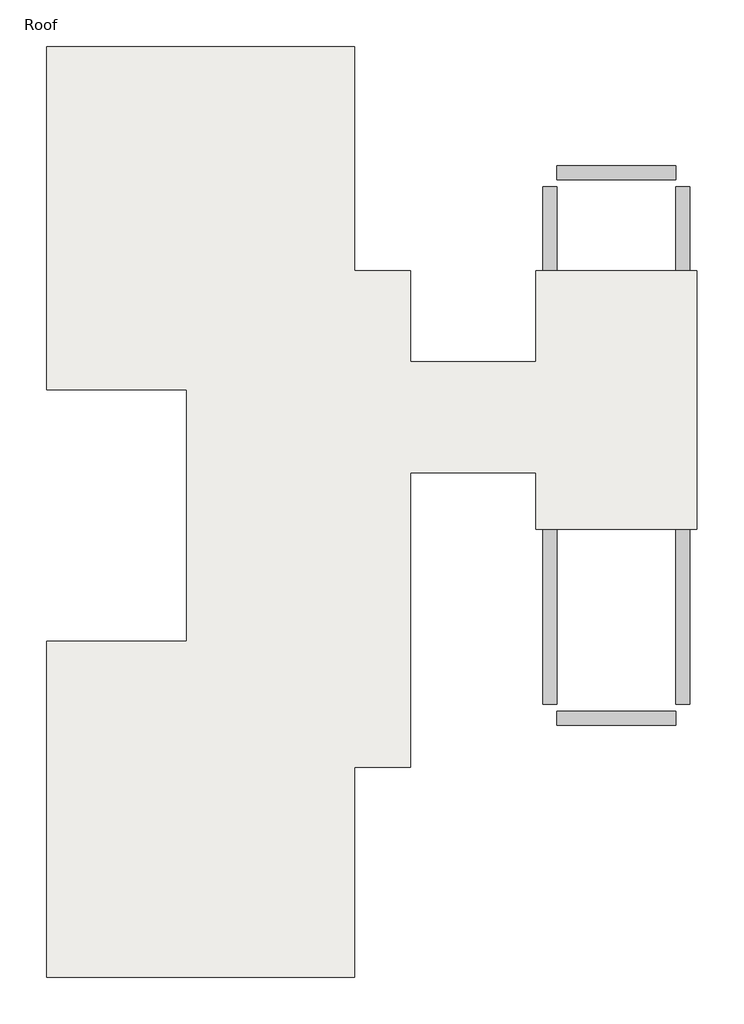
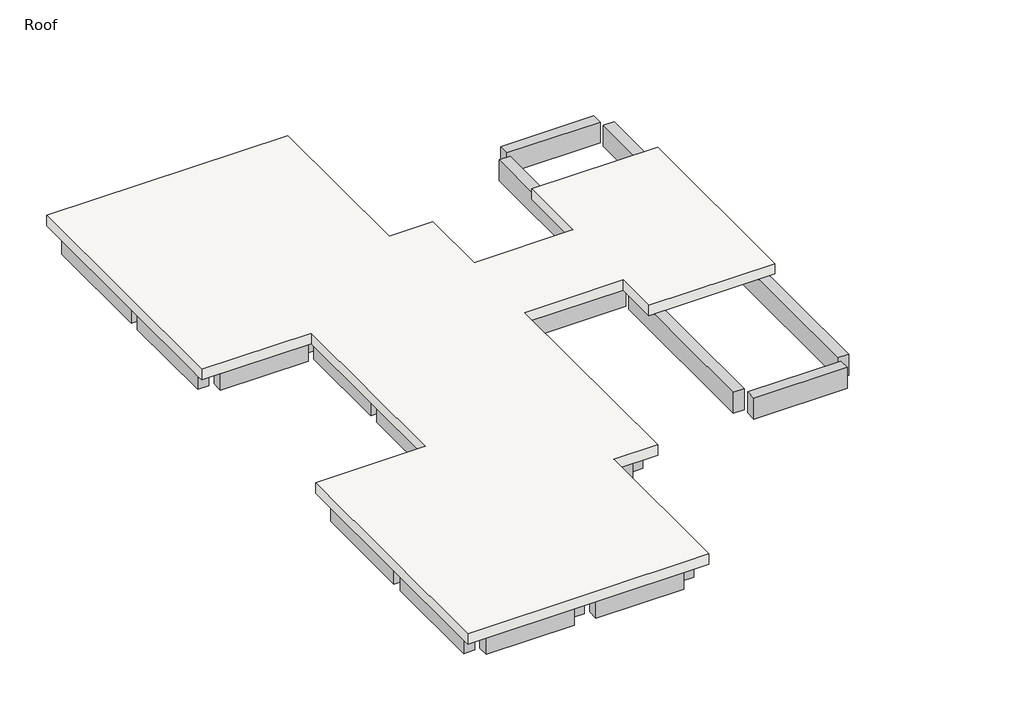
# One storey: 45 beams, 1 slab.
"""IFC4 building model written with IfcOpenShell, lengths in millimetres."""

import ifcopenshell
import ifcopenshell.guid

model = None  # the IFC model being written
_history = None  # IfcOwnerHistory: only IFC2X3 demands one
_inside = {}  # id of a spatial element -> (the spatial element, [elements in it])
_under = {}  # id of a project, library or spatial element -> (it, [spatial elements below it])
_declared = {}  # id of a project -> (the project, [libraries it declares])
_typed = {}  # id of a type object -> (the type object, [elements of that type])
_made_of = {}  # id of a material, layer set ... -> (it, [elements and type objects made of it])


def new_model(schema):
    """Start an empty IFC model of exactly this schema.

    Asked for "IFC4X3", IfcOpenShell would pick the latest addendum, in which some entities
    have other attributes; the version numbers below select the first issue.
    IFC2X3 requires an IfcOwnerHistory on every rooted entity: one is made here for all.
    """
    global model, _history
    if schema == "IFC4X3":
        model = ifcopenshell.file(schema_version=(4, 3, 0, 0))
    else:
        model = ifcopenshell.file(schema=schema)
    _inside.clear()
    _under.clear()
    _declared.clear()
    _typed.clear()
    _made_of.clear()
    _history = None
    if model.schema == "IFC2X3":
        org = make("IfcOrganization", Name="unknown")
        user = make(
            "IfcPersonAndOrganization",
            ThePerson=make("IfcPerson", FamilyName="unknown"),
            TheOrganization=org,
        )
        app = make(
            "IfcApplication",
            ApplicationDeveloper=org,
            Version="unknown",
            ApplicationFullName="unknown",
            ApplicationIdentifier="unknown",
        )
        _history = make(
            "IfcOwnerHistory",
            OwningUser=user,
            OwningApplication=app,
            ChangeAction="ADDED",
            CreationDate=0,
        )
    return model


def make(cls, **values):
    """One entity of the class cls with the attributes given. An attribute that is None is left unset."""
    return model.create_entity(
        cls, **{name: value for name, value in values.items() if value is not None}
    )


def rooted(cls, **values):
    """An entity with a GlobalId (a new one), such as an element, a storey or a relation."""
    return make(cls, GlobalId=ifcopenshell.guid.new(), OwnerHistory=_history, **values)


def si_unit(unit_type, name, prefix=None):
    """IfcSIUnit, for example si_unit("LENGTHUNIT", "METRE", prefix="MILLI")."""
    return make("IfcSIUnit", UnitType=unit_type, Prefix=prefix, Name=name)


def assignment(units):
    """IfcUnitAssignment: the units of a project."""
    return None if units is None else make("IfcUnitAssignment", Units=units)


def point(xyz):
    """IfcCartesianPoint."""
    return None if xyz is None else make("IfcCartesianPoint", Coordinates=xyz)


def direction(xyz):
    """IfcDirection."""
    return None if xyz is None else make("IfcDirection", DirectionRatios=xyz)


def frame(location, z_axis=None, x_axis=None):
    """IfcAxis2Placement3D, a coordinate frame: its origin and axes. An axis left out is left unset."""
    return make(
        "IfcAxis2Placement3D",
        Location=point(location),
        Axis=direction(z_axis),
        RefDirection=direction(x_axis),
    )


def origin():
    """The frame at (0, 0, 0) with its axes left unset."""
    return frame((0.0, 0.0, 0.0))


def place(relative_to, where):
    """IfcLocalPlacement: puts the frame where relative to a parent placement (None: the world)."""
    return make(
        "IfcLocalPlacement", PlacementRelTo=relative_to, RelativePlacement=where
    )


def context(
    kind, dimensions, precision=None, world=None, true_north=None, identifier=None
):
    """IfcGeometricRepresentationContext, for example the 3D "Model" context."""
    return make(
        "IfcGeometricRepresentationContext",
        ContextIdentifier=identifier,
        ContextType=kind,
        CoordinateSpaceDimension=dimensions,
        Precision=precision,
        WorldCoordinateSystem=world,
        TrueNorth=true_north,
    )


def project(units=None, contexts=None):
    """IfcProject with its units and contexts."""
    return rooted(
        "IfcProject",
        Name="project",
        RepresentationContexts=contexts,
        UnitsInContext=assignment(units),
    )


def spatial(cls, under=None, at=None, **own):
    """A site, building, storey or space (cls), placed at a placement, below another one or the project."""
    s = rooted(cls, ObjectPlacement=at, **own)
    if under is not None:
        _under.setdefault(under.id(), (under, []))[1].append(s)
    return s


def polyline(points):
    """IfcPolyline through the points."""
    return make("IfcPolyline", Points=[point(p) for p in points])


def outline(outer, holes=None, kind="AREA"):
    """IfcArbitraryClosedProfileDef: a profile drawn as a closed curve; with holes, ...WithVoids."""
    if holes is None:
        return make("IfcArbitraryClosedProfileDef", ProfileType=kind, OuterCurve=outer)
    return make(
        "IfcArbitraryProfileDefWithVoids",
        ProfileType=kind,
        OuterCurve=outer,
        InnerCurves=holes,
    )


def extrude(swept, where, along, depth):
    """IfcExtrudedAreaSolid: the profile swept, set in the frame where, extruded along a direction by depth."""
    return make(
        "IfcExtrudedAreaSolid",
        SweptArea=swept,
        Position=where,
        ExtrudedDirection=direction(along),
        Depth=depth,
    )


def faces_of(points, faces, orient=None, outer=None):
    """IfcFace entities. A face is a list of loops; a loop is a list of indices into points, from 0.

    orient and outer hold one flag for each loop. By default every Orientation is true, the
    first loop of a face is its IfcFaceOuterBound and the others are IfcFaceBound.
    """
    made = []
    for i, loops in enumerate(faces):
        bounds = []
        for j, loop in enumerate(loops):
            is_outer = j == 0 if outer is None else outer[i][j]
            bounds.append(
                make(
                    "IfcFaceOuterBound" if is_outer else "IfcFaceBound",
                    Bound=make("IfcPolyLoop", Polygon=[points[k] for k in loop]),
                    Orientation=True if orient is None else orient[i][j],
                )
            )
        made.append(make("IfcFace", Bounds=bounds))
    return made


def faceted_brep(points, faces, orient=None, outer=None, voids=None):
    """IfcFacetedBrep: a solid bounded by flat faces; with voids (closed shells), ...WithVoids."""
    shared = [point(p) for p in points]
    hull = make("IfcClosedShell", CfsFaces=faces_of(shared, faces, orient, outer))
    if voids is None:
        return make("IfcFacetedBrep", Outer=hull)
    return make(
        "IfcFacetedBrepWithVoids",
        Outer=hull,
        Voids=[
            make(cls, CfsFaces=faces_of(shared, fs, o, b)) for cls, fs, o, b in voids
        ],
    )


def shape(context_of_items, identifier, shape_type, items):
    """IfcShapeRepresentation: the items that make up one representation, for example the "Body"."""
    return make(
        "IfcShapeRepresentation",
        ContextOfItems=context_of_items,
        RepresentationIdentifier=identifier,
        RepresentationType=shape_type,
        Items=items,
    )


def made_of(thing, what):
    """Note that an element or type object is made of a material, layer set ...; save() writes the relation."""
    if what is not None:
        _made_of.setdefault(what.id(), (what, []))[1].append(thing)
    return thing


def element(
    cls,
    number,
    at=None,
    inside=None,
    cuts=None,
    type_object=None,
    material=None,
    context=None,
    identifier="Body",
    shape_type=None,
    held_by="IfcProductDefinitionShape",
    body=None,
    shapes=None,
    **own,
):
    """One element of the class cls, such as IfcWall. Its Tag is "e" and its number.

    at: its placement. inside: the storey or other place that contains it. cuts: it is an
    opening in that element (IfcRelVoidsElement). A single representation is given by context,
    identifier, shape_type and body (its items); several are given by shapes. held_by: the class
    of the entity that holds the representations. save() writes the other relations.
    """
    e = rooted(cls, Tag="e%d" % number, ObjectPlacement=at, **own)
    if body is not None:
        shapes = [shape(context, identifier, shape_type, body)]
    if shapes is not None:
        e.Representation = make(held_by, Representations=shapes)
    if inside is not None:
        _inside.setdefault(inside.id(), (inside, []))[1].append(e)
    if cuts is not None:
        rooted(
            "IfcRelVoidsElement", RelatingBuildingElement=cuts, RelatedOpeningElement=e
        )
    if type_object is not None:
        _typed.setdefault(type_object.id(), (type_object, []))[1].append(e)
    return made_of(e, material)


def aggregate(whole, parts):
    """IfcRelAggregates: a whole, such as a stair, and the parts it consists of."""
    return rooted("IfcRelAggregates", RelatingObject=whole, RelatedObjects=parts)


def save(model, path):
    """Write the relations noted so far, then the file.

    IfcRelAggregates (storeys below a building ...), IfcRelContainedInSpatialStructure (elements
    in a storey), IfcRelDefinesByType, IfcRelAssociatesMaterial and IfcRelDeclares: one each for
    every whole, place, type object, material and project.
    """
    for whole, parts in _under.values():
        aggregate(whole, parts)
    for where, things in _inside.values():
        rooted(
            "IfcRelContainedInSpatialStructure",
            RelatedElements=things,
            RelatingStructure=where,
        )
    for kind, things in _typed.values():
        rooted("IfcRelDefinesByType", RelatedObjects=things, RelatingType=kind)
    for what, things in _made_of.values():
        rooted("IfcRelAssociatesMaterial", RelatedObjects=things, RelatingMaterial=what)
    for by, libraries in _declared.values():
        rooted("IfcRelDeclares", RelatingContext=by, RelatedDefinitions=libraries)
    model.write(path)


model = new_model("IFC4")

# Units and contexts
model_context = context("Model", 3, world=origin())
ifc_project = project(units=[si_unit("LENGTHUNIT", "METRE", prefix="MILLI")], contexts=[model_context])

# Site, building, storey
site = spatial("IfcSite", under=ifc_project)
building = spatial("IfcBuilding", under=site)
storey = spatial("IfcBuildingStorey", under=building, Name="Roof", Elevation=7620.0)

# Beams
placement = place(None, origin())
element("IfcBeam", 1, ObjectType="Concrete-Rectangular Beam : 12 x 24", at=placement, inside=storey, context=model_context, shape_type="SweptSolid", body=[
    extrude(outline(polyline([(-15067.9554735, 14342.1867088), (-15067.9554735, 14646.9867088), (-12629.5554735, 14646.9867088), (-12629.5554735, 14342.1867088), (-15067.9554735, 14342.1867088)])), frame((0.0, 0.0, 6705.6), z_axis=(0.0, 0.0, 1.0), x_axis=(1.0, 0.0, 0.0)), (0.0, 0.0, 1.0), 609.6),
])
element("IfcBeam", 2, ObjectType="Concrete-Rectangular Beam : 12 x 24", at=placement, inside=storey, context=model_context, shape_type="SweptSolid", body=[
    extrude(outline(polyline([(-12019.9554735, 14342.1867088), (-12019.9554735, 14646.9867088), (-9581.5554735, 14646.9867088), (-9581.5554735, 14342.1867088), (-12019.9554735, 14342.1867088)])), frame((0.0, 0.0, 6705.6), z_axis=(0.0, 0.0, 1.0), x_axis=(1.0, 0.0, 0.0)), (0.0, 0.0, 1.0), 609.6),
])
element("IfcBeam", 3, ObjectType="Concrete-Rectangular Beam : 12 x 24", at=placement, inside=storey, context=model_context, shape_type="SweptSolid", body=[
    extrude(outline(polyline([(-9429.1554735, 14342.1867088), (-9124.3554735, 14342.1867088), (-9124.3554735, 10989.3867088), (-9429.1554735, 10989.3867088), (-9429.1554735, 14342.1867088)])), frame((0.0, 0.0, 6705.6), z_axis=(0.0, 0.0, 1.0), x_axis=(1.0, 0.0, 0.0)), (0.0, 0.0, 1.0), 609.6),
])
element("IfcBeam", 4, ObjectType="Concrete-Rectangular Beam : 12 x 24", at=placement, inside=storey, context=model_context, shape_type="SweptSolid", body=[
    extrude(outline(polyline([(-7905.1554735, 7788.9867088), (-8209.9554735, 7788.9867088), (-8209.9554735, 9465.3867088), (-7905.1554735, 9465.3867088), (-7905.1554735, 7788.9867088)])), frame((0.0, 0.0, 6705.6), z_axis=(0.0, 0.0, 1.0), x_axis=(1.0, 0.0, 0.0)), (0.0, 0.0, 1.0), 609.6),
])
element("IfcBeam", 5, ObjectType="Concrete-Rectangular Beam : 12 x 24", at=placement, inside=storey, context=model_context, shape_type="Brep", body=[
    faceted_brep([(-9429.1554735, 9770.1867088, 7315.2), (-9429.1554735, 9465.3867088, 7315.2), (-8362.3554735, 9465.3867088, 7315.2), (-8362.3554735, 9770.1867088, 7315.2), (-9124.3554735, 9770.1867088, 7315.2), (-9429.1554735, 9770.1867088, 6705.6), (-8362.3554735, 9770.1867088, 6705.6), (-9124.3554735, 9770.1867088, 6705.6), (-9429.1554735, 9465.3867088, 6705.6), (-8362.3554735, 9465.3867088, 6705.6)], [[[0, 1, 2, 3, 4]], [[5, 0, 4, 3, 6, 7]], [[8, 5, 7, 6, 9]], [[1, 8, 9, 2]], [[3, 2, 9, 6]], [[1, 0, 5, 8]]]),
])
element("IfcBeam", 6, ObjectType="Concrete-Rectangular Beam : 12 x 24", at=placement, inside=storey, context=model_context, shape_type="Brep", body=[
    faceted_brep([(-7905.1554735, 7484.1867088, 7315.2), (-8209.9554735, 7484.1867088, 7315.2), (-8209.9554735, 4740.9867088, 7315.2), (-7905.1554735, 4740.9867088, 7315.2), (-7905.1554735, 5655.3867088, 7315.2), (-7905.1554735, 5960.1867088, 7315.2), (-8209.9554735, 7484.1867088, 6705.6), (-8209.9554735, 4740.9867088, 6705.6), (-7905.1554735, 7484.1867088, 6705.6), (-7905.1554735, 5960.1867088, 6705.6), (-7905.1554735, 5655.3867088, 6705.6), (-7905.1554735, 4740.9867088, 6705.6)], [[[0, 1, 2, 3, 4, 5]], [[1, 6, 7, 2]], [[6, 8, 9, 10, 11, 7]], [[8, 0, 5, 4, 3, 11, 10, 9]], [[6, 1, 0, 8]], [[3, 2, 7, 11]]]),
])
element("IfcBeam", 7, ObjectType="Concrete-Rectangular Beam : 12 x 24", at=placement, inside=storey, context=model_context, shape_type="SweptSolid", body=[
    extrude(outline(polyline([(-8209.9554735, 4436.1867088), (-7905.1554735, 4436.1867088), (-7905.1554735, 1692.9867088), (-8209.9554735, 1692.9867088), (-8209.9554735, 4436.1867088)])), frame((0.0, 0.0, 6705.6), z_axis=(0.0, 0.0, 1.0), x_axis=(1.0, 0.0, 0.0)), (0.0, 0.0, 1.0), 609.6),
])
element("IfcBeam", 8, ObjectType="Concrete-Rectangular Beam : 12 x 24", at=placement, inside=storey, context=model_context, shape_type="SweptSolid", body=[
    extrude(outline(polyline([(-8209.9554735, 1388.1867088), (-7905.1554735, 1388.1867088), (-7905.1554735, -440.6132912), (-8209.9554735, -440.6132912), (-8209.9554735, 1388.1867088)])), frame((0.0, 0.0, 6705.6), z_axis=(0.0, 0.0, 1.0), x_axis=(1.0, 0.0, 0.0)), (0.0, 0.0, 1.0), 609.6),
])
element("IfcBeam", 9, ObjectType="Concrete-Rectangular Beam : 12 x 24", at=placement, inside=storey, context=model_context, shape_type="Brep", body=[
    faceted_brep([(-9429.1554735, -440.6132912, 7315.2), (-9429.1554735, -745.4132912, 7315.2), (-9124.3554735, -745.4132912, 7315.2), (-8362.3554735, -745.4132912, 7315.2), (-8362.3554735, -440.6132912, 7315.2), (-9429.1554735, -440.6132912, 6705.6), (-8362.3554735, -440.6132912, 6705.6), (-9429.1554735, -745.4132912, 6705.6), (-8362.3554735, -745.4132912, 6705.6), (-9124.3554735, -745.4132912, 6705.6)], [[[0, 1, 2, 3, 4]], [[5, 0, 4, 6]], [[7, 5, 6, 8, 9]], [[1, 7, 9, 8, 3, 2]], [[4, 3, 8, 6]], [[1, 0, 5, 7]]]),
])
element("IfcBeam", 10, ObjectType="Concrete-Rectangular Beam : 12 x 24", at=placement, inside=storey, context=model_context, shape_type="SweptSolid", body=[
    extrude(outline(polyline([(-9429.1554735, -745.4132912), (-9124.3554735, -745.4132912), (-9124.3554735, -1659.8132912), (-9429.1554735, -1659.8132912), (-9429.1554735, -745.4132912)])), frame((0.0, 0.0, 6705.6), z_axis=(0.0, 0.0, 1.0), x_axis=(1.0, 0.0, 0.0)), (0.0, 0.0, 1.0), 609.6),
])
element("IfcBeam", 11, ObjectType="Concrete-Rectangular Beam : 12 x 24", at=placement, inside=storey, context=model_context, shape_type="SweptSolid", body=[
    extrude(outline(polyline([(-9429.1554735, -1964.6132912), (-9124.3554735, -1964.6132912), (-9124.3554735, -5012.6132912), (-9429.1554735, -5012.6132912), (-9429.1554735, -1964.6132912)])), frame((0.0, 0.0, 6705.6), z_axis=(0.0, 0.0, 1.0), x_axis=(1.0, 0.0, 0.0)), (0.0, 0.0, 1.0), 609.6),
])
element("IfcBeam", 12, ObjectType="Concrete-Rectangular Beam : 12 x 24", at=placement, inside=storey, context=model_context, shape_type="SweptSolid", body=[
    extrude(outline(polyline([(-12019.9554735, -5317.4132912), (-12019.9554735, -5012.6132912), (-9581.5554735, -5012.6132912), (-9581.5554735, -5317.4132912), (-12019.9554735, -5317.4132912)])), frame((0.0, 0.0, 6705.6), z_axis=(0.0, 0.0, 1.0), x_axis=(1.0, 0.0, 0.0)), (0.0, 0.0, 1.0), 609.6),
])
element("IfcBeam", 13, ObjectType="Concrete-Rectangular Beam : 12 x 24", at=placement, inside=storey, context=model_context, shape_type="SweptSolid", body=[
    extrude(outline(polyline([(-12629.5554735, -5012.6132912), (-12629.5554735, -5317.4132912), (-15067.9554735, -5317.4132912), (-15067.9554735, -5012.6132912), (-12629.5554735, -5012.6132912)])), frame((0.0, 0.0, 6705.6), z_axis=(0.0, 0.0, 1.0), x_axis=(1.0, 0.0, 0.0)), (0.0, 0.0, 1.0), 609.6),
])
element("IfcBeam", 14, ObjectType="Concrete-Rectangular Beam : 12 x 24", at=placement, inside=storey, context=model_context, shape_type="SweptSolid", body=[
    extrude(outline(polyline([(-15220.3554735, -5012.6132912), (-15525.1554735, -5012.6132912), (-15525.1554735, -1964.6132912), (-15220.3554735, -1964.6132912), (-15220.3554735, -5012.6132912)])), frame((0.0, 0.0, 6705.6), z_axis=(0.0, 0.0, 1.0), x_axis=(1.0, 0.0, 0.0)), (0.0, 0.0, 1.0), 609.6),
])
element("IfcBeam", 15, ObjectType="Concrete-Rectangular Beam : 12 x 24", at=placement, inside=storey, context=model_context, shape_type="SweptSolid", body=[
    extrude(outline(polyline([(-15220.3554735, -1659.8132912), (-15525.1554735, -1659.8132912), (-15525.1554735, 1388.1867088), (-15220.3554735, 1388.1867088), (-15220.3554735, -1659.8132912)])), frame((0.0, 0.0, 6705.6), z_axis=(0.0, 0.0, 1.0), x_axis=(1.0, 0.0, 0.0)), (0.0, 0.0, 1.0), 609.6),
])
element("IfcBeam", 16, ObjectType="Concrete-Rectangular Beam : 12 x 24", at=placement, inside=storey, context=model_context, shape_type="SweptSolid", body=[
    extrude(outline(polyline([(-15525.1554735, 14342.1867088), (-15220.3554735, 14342.1867088), (-15220.3554735, 10989.3867088), (-15525.1554735, 10989.3867088), (-15525.1554735, 14342.1867088)])), frame((0.0, 0.0, 6705.6), z_axis=(0.0, 0.0, 1.0), x_axis=(1.0, 0.0, 0.0)), (0.0, 0.0, 1.0), 609.6),
])
element("IfcBeam", 17, ObjectType="Concrete-Rectangular Beam : 12 x 24", at=placement, inside=storey, context=model_context, shape_type="SweptSolid", body=[
    extrude(outline(polyline([(-12477.1554735, 14342.1867088), (-12172.3554735, 14342.1867088), (-12172.3554735, 10989.3867088), (-12477.1554735, 10989.3867088), (-12477.1554735, 14342.1867088)])), frame((0.0, 0.0, 6705.6), z_axis=(0.0, 0.0, 1.0), x_axis=(1.0, 0.0, 0.0)), (0.0, 0.0, 1.0), 609.6),
])
element("IfcBeam", 18, ObjectType="Concrete-Rectangular Beam : 12 x 24", at=placement, inside=storey, context=model_context, shape_type="SweptSolid", body=[
    extrude(outline(polyline([(-15067.9554735, 10684.5867088), (-15067.9554735, 10989.3867088), (-12629.5554735, 10989.3867088), (-12629.5554735, 10684.5867088), (-15067.9554735, 10684.5867088)])), frame((0.0, 0.0, 6705.6), z_axis=(0.0, 0.0, 1.0), x_axis=(1.0, 0.0, 0.0)), (0.0, 0.0, 1.0), 609.6),
])
element("IfcBeam", 19, ObjectType="Concrete-Rectangular Beam : 12 x 24", at=placement, inside=storey, context=model_context, shape_type="SweptSolid", body=[
    extrude(outline(polyline([(-12477.1554735, 10836.9867088), (-12172.3554735, 10836.9867088), (-12172.3554735, 7788.9867088), (-12477.1554735, 7788.9867088), (-12477.1554735, 10836.9867088)])), frame((0.0, 0.0, 6705.6), z_axis=(0.0, 0.0, 1.0), x_axis=(1.0, 0.0, 0.0)), (0.0, 0.0, 1.0), 609.6),
])
element("IfcBeam", 20, ObjectType="Concrete-Rectangular Beam : 12 x 24", at=placement, inside=storey, context=model_context, shape_type="SweptSolid", body=[
    extrude(outline(polyline([(-12477.1554735, 7484.1867088), (-12172.3554735, 7484.1867088), (-12172.3554735, 4740.9867088), (-12477.1554735, 4740.9867088), (-12477.1554735, 7484.1867088)])), frame((0.0, 0.0, 6705.6), z_axis=(0.0, 0.0, 1.0), x_axis=(1.0, 0.0, 0.0)), (0.0, 0.0, 1.0), 609.6),
])
element("IfcBeam", 21, ObjectType="Concrete-Rectangular Beam : 12 x 24", at=placement, inside=storey, context=model_context, shape_type="SweptSolid", body=[
    extrude(outline(polyline([(-12477.1554735, 4436.1867088), (-12172.3554735, 4436.1867088), (-12172.3554735, 1692.9867088), (-12477.1554735, 1692.9867088), (-12477.1554735, 4436.1867088)])), frame((0.0, 0.0, 6705.6), z_axis=(0.0, 0.0, 1.0), x_axis=(1.0, 0.0, 0.0)), (0.0, 0.0, 1.0), 609.6),
])
element("IfcBeam", 22, ObjectType="Concrete-Rectangular Beam : 12 x 24", at=placement, inside=storey, context=model_context, shape_type="SweptSolid", body=[
    extrude(outline(polyline([(-12477.1554735, 1388.1867088), (-12172.3554735, 1388.1867088), (-12172.3554735, -1659.8132912), (-12477.1554735, -1659.8132912), (-12477.1554735, 1388.1867088)])), frame((0.0, 0.0, 6705.6), z_axis=(0.0, 0.0, 1.0), x_axis=(1.0, 0.0, 0.0)), (0.0, 0.0, 1.0), 609.6),
])
element("IfcBeam", 23, ObjectType="Concrete-Rectangular Beam : 12 x 24", at=placement, inside=storey, context=model_context, shape_type="SweptSolid", body=[
    extrude(outline(polyline([(-12172.3554735, -5012.6132912), (-12477.1554735, -5012.6132912), (-12477.1554735, -1964.6132912), (-12172.3554735, -1964.6132912), (-12172.3554735, -5012.6132912)])), frame((0.0, 0.0, 6705.6), z_axis=(0.0, 0.0, 1.0), x_axis=(1.0, 0.0, 0.0)), (0.0, 0.0, 1.0), 609.6),
])
element("IfcBeam", 24, ObjectType="Concrete-Rectangular Beam : 12 x 24", at=placement, inside=storey, context=model_context, shape_type="SweptSolid", body=[
    extrude(outline(polyline([(-15525.1554735, 10684.5867088), (-15220.3554735, 10684.5867088), (-15220.3554735, 7788.9867088), (-15525.1554735, 7788.9867088), (-15525.1554735, 10684.5867088)])), frame((0.0, 0.0, 6705.6), z_axis=(0.0, 0.0, 1.0), x_axis=(1.0, 0.0, 0.0)), (0.0, 0.0, 1.0), 609.6),
])
element("IfcBeam", 25, ObjectType="Concrete-Rectangular Beam : 12 x 24", at=placement, inside=storey, context=model_context, shape_type="SweptSolid", body=[
    extrude(outline(polyline([(-15067.9554735, 7484.1867088), (-15067.9554735, 7788.9867088), (-12629.5554735, 7788.9867088), (-12629.5554735, 7484.1867088), (-15067.9554735, 7484.1867088)])), frame((0.0, 0.0, 6705.6), z_axis=(0.0, 0.0, 1.0), x_axis=(1.0, 0.0, 0.0)), (0.0, 0.0, 1.0), 609.6),
])
element("IfcBeam", 26, ObjectType="Concrete-Rectangular Beam : 12 x 24", at=placement, inside=storey, context=model_context, shape_type="SweptSolid", body=[
    extrude(outline(polyline([(-12019.9554735, 1388.1867088), (-12019.9554735, 1692.9867088), (-8362.3554735, 1692.9867088), (-8362.3554735, 1388.1867088), (-12019.9554735, 1388.1867088)])), frame((0.0, 0.0, 6705.6), z_axis=(0.0, 0.0, 1.0), x_axis=(1.0, 0.0, 0.0)), (0.0, 0.0, 1.0), 609.6),
])
element("IfcBeam", 27, ObjectType="Concrete-Rectangular Beam : 12 x 24", at=placement, inside=storey, context=model_context, shape_type="SweptSolid", body=[
    extrude(outline(polyline([(-4552.3554735, 5655.3867088), (-4552.3554735, 5960.1867088), (-1961.5554735, 5960.1867088), (-1961.5554735, 5655.3867088), (-4552.3554735, 5655.3867088)])), frame((0.0, 0.0, 6705.6), z_axis=(0.0, 0.0, 1.0), x_axis=(1.0, 0.0, 0.0)), (0.0, 0.0, 1.0), 609.6),
])
element("IfcBeam", 28, ObjectType="Concrete-Rectangular Beam : 12 x 24", at=placement, inside=storey, context=model_context, shape_type="SweptSolid", body=[
    extrude(outline(polyline([(-4857.1554735, 7788.9867088), (-4857.1554735, 7484.1867088), (-7752.7554735, 7484.1867088), (-7752.7554735, 7788.9867088), (-4857.1554735, 7788.9867088)])), frame((0.0, 0.0, 6705.6), z_axis=(0.0, 0.0, 1.0), x_axis=(1.0, 0.0, 0.0)), (0.0, 0.0, 1.0), 609.6),
])
element("IfcBeam", 29, ObjectType="Concrete-Rectangular Beam : 12 x 24", at=placement, inside=storey, context=model_context, shape_type="SweptSolid", body=[
    extrude(outline(polyline([(-4857.1554735, 5960.1867088), (-4857.1554735, 5655.3867088), (-7905.1554735, 5655.3867088), (-7905.1554735, 5960.1867088), (-4857.1554735, 5960.1867088)])), frame((0.0, 0.0, 6705.6), z_axis=(0.0, 0.0, 1.0), x_axis=(1.0, 0.0, 0.0)), (0.0, 0.0, 1.0), 609.6),
])
element("IfcBeam", 30, ObjectType="Concrete-Rectangular Beam : 12 x 24", at=placement, inside=storey, context=model_context, shape_type="SweptSolid", body=[
    extrude(outline(polyline([(-4552.3554735, 7484.1867088), (-4552.3554735, 7788.9867088), (-1961.5554735, 7788.9867088), (-1961.5554735, 7484.1867088), (-4552.3554735, 7484.1867088)])), frame((0.0, 0.0, 6705.6), z_axis=(0.0, 0.0, 1.0), x_axis=(1.0, 0.0, 0.0)), (0.0, 0.0, 1.0), 609.6),
])
element("IfcBeam", 31, ObjectType="Concrete-Rectangular Beam : 12 x 24", at=placement, inside=storey, context=model_context, shape_type="SweptSolid", body=[
    extrude(outline(polyline([(-12477.1554735, 10684.5867088), (-12172.3554735, 10684.5867088), (-12172.3554735, 7788.9867088), (-12477.1554735, 7788.9867088), (-12477.1554735, 10684.5867088)])), frame((0.0, 0.0, 6705.6), z_axis=(0.0, 0.0, 1.0), x_axis=(1.0, 0.0, 0.0)), (0.0, 0.0, 1.0), 609.6),
])
element("IfcBeam", 32, ObjectType="Concrete-Rectangular Beam : 12 x 24", at=placement, inside=storey, context=model_context, shape_type="SweptSolid", body=[
    extrude(outline(polyline([(-12019.9554735, 10684.5867088), (-12019.9554735, 10989.3867088), (-9581.5554735, 10989.3867088), (-9581.5554735, 10684.5867088), (-12019.9554735, 10684.5867088)])), frame((0.0, 0.0, 6705.6), z_axis=(0.0, 0.0, 1.0), x_axis=(1.0, 0.0, 0.0)), (0.0, 0.0, 1.0), 609.6),
])
element("IfcBeam", 33, ObjectType="Concrete-Rectangular Beam : 12 x 24", at=placement, inside=storey, context=model_context, shape_type="SweptSolid", body=[
    extrude(outline(polyline([(-12629.5554735, -1659.8132912), (-12629.5554735, -1964.6132912), (-15067.9554735, -1964.6132912), (-15067.9554735, -1659.8132912), (-12629.5554735, -1659.8132912)])), frame((0.0, 0.0, 6705.6), z_axis=(0.0, 0.0, 1.0), x_axis=(1.0, 0.0, 0.0)), (0.0, 0.0, 1.0), 609.6),
])
element("IfcBeam", 34, ObjectType="Concrete-Rectangular Beam : 12 x 24", at=placement, inside=storey, context=model_context, shape_type="SweptSolid", body=[
    extrude(outline(polyline([(-12629.5554735, 1692.9867088), (-12629.5554735, 1388.1867088), (-15067.9554735, 1388.1867088), (-15067.9554735, 1692.9867088), (-12629.5554735, 1692.9867088)])), frame((0.0, 0.0, 6705.6), z_axis=(0.0, 0.0, 1.0), x_axis=(1.0, 0.0, 0.0)), (0.0, 0.0, 1.0), 609.6),
])
element("IfcBeam", 35, ObjectType="Concrete-Rectangular Beam : 12 x 24", at=placement, inside=storey, context=model_context, shape_type="SweptSolid", body=[
    extrude(outline(polyline([(-12019.9554735, -1964.6132912), (-12019.9554735, -1659.8132912), (-9581.5554735, -1659.8132912), (-9581.5554735, -1964.6132912), (-12019.9554735, -1964.6132912)])), frame((0.0, 0.0, 6705.6), z_axis=(0.0, 0.0, 1.0), x_axis=(1.0, 0.0, 0.0)), (0.0, 0.0, 1.0), 609.6),
])
element("IfcBeam", 36, ObjectType="Concrete-Rectangular Beam : 12 x 24", at=placement, inside=storey, context=model_context, shape_type="SweptSolid", body=[
    extrude(outline(polyline([(-9124.3554735, 9770.1867088), (-9429.1554735, 9770.1867088), (-9429.1554735, 10684.5867088), (-9124.3554735, 10684.5867088), (-9124.3554735, 9770.1867088)])), frame((0.0, 0.0, 6705.6), z_axis=(0.0, 0.0, 1.0), x_axis=(1.0, 0.0, 0.0)), (0.0, 0.0, 1.0), 609.6),
])
element("IfcBeam", 37, ObjectType="Concrete-Rectangular Beam : 12 x 24", at=placement, inside=storey, context=model_context, shape_type="SweptSolid", body=[
    extrude(outline(polyline([(-8362.3554735, 7788.9867088), (-8362.3554735, 7484.1867088), (-12019.9554735, 7484.1867088), (-12019.9554735, 7788.9867088), (-8362.3554735, 7788.9867088)])), frame((0.0, 0.0, 6705.6), z_axis=(0.0, 0.0, 1.0), x_axis=(1.0, 0.0, 0.0)), (0.0, 0.0, 1.0), 609.6),
])
element("IfcBeam", 38, ObjectType="Concrete-Rectangular Beam : 12 x 24", at=placement, inside=storey, context=model_context, shape_type="SweptSolid", body=[
    extrude(outline(polyline([(-12019.9554735, 4436.1867088), (-12019.9554735, 4740.9867088), (-8362.3554735, 4740.9867088), (-8362.3554735, 4436.1867088), (-12019.9554735, 4436.1867088)])), frame((0.0, 0.0, 6705.6), z_axis=(0.0, 0.0, 1.0), x_axis=(1.0, 0.0, 0.0)), (0.0, 0.0, 1.0), 609.6),
])
element("IfcBeam", 39, ObjectType="Concrete-Rectangular Beam : 12 x 24", at=placement, inside=storey, context=model_context, shape_type="SweptSolid", body=[
    extrude(outline(polyline([(-4552.3554735, 16.5867088), (-4552.3554735, 321.3867088), (-1961.5554735, 321.3867088), (-1961.5554735, 16.5867088), (-4552.3554735, 16.5867088)])), frame((0.0, 0.0, 6705.6), z_axis=(0.0, 0.0, 1.0), x_axis=(1.0, 0.0, 0.0)), (0.0, 0.0, 1.0), 609.6),
])
element("IfcBeam", 40, ObjectType="Concrete-Rectangular Beam : 12 x 24", at=placement, inside=storey, context=model_context, shape_type="SweptSolid", body=[
    extrude(outline(polyline([(-1656.7554735, 473.7867088), (-1961.5554735, 473.7867088), (-1961.5554735, 5502.9867088), (-1656.7554735, 5502.9867088), (-1656.7554735, 473.7867088)])), frame((0.0, 0.0, 6705.6), z_axis=(0.0, 0.0, 1.0), x_axis=(1.0, 0.0, 0.0)), (0.0, 0.0, 1.0), 609.6),
])
element("IfcBeam", 41, ObjectType="Concrete-Rectangular Beam : 12 x 24", at=placement, inside=storey, context=model_context, shape_type="SweptSolid", body=[
    extrude(outline(polyline([(-1961.5554735, 11751.3867088), (-1656.7554735, 11751.3867088), (-1656.7554735, 7941.3867088), (-1961.5554735, 7941.3867088), (-1961.5554735, 11751.3867088)])), frame((0.0, 0.0, 6705.6), z_axis=(0.0, 0.0, 1.0), x_axis=(1.0, 0.0, 0.0)), (0.0, 0.0, 1.0), 609.6),
    extrude(outline(polyline([(-1656.7554735, 6112.5867088), (-1961.5554735, 6112.5867088), (-1961.5554735, 7331.7867088), (-1656.7554735, 7331.7867088), (-1656.7554735, 6112.5867088)])), frame((0.0, 0.0, 6705.6), z_axis=(0.0, 0.0, 1.0), x_axis=(1.0, 0.0, 0.0)), (0.0, 0.0, 1.0), 609.6),
])
element("IfcBeam", 42, ObjectType="Concrete-Rectangular Beam : 12 x 24", at=placement, inside=storey, context=model_context, shape_type="SweptSolid", body=[
    extrude(outline(polyline([(-4857.1554735, 5502.9867088), (-4552.3554735, 5502.9867088), (-4552.3554735, 473.7867088), (-4857.1554735, 473.7867088), (-4857.1554735, 5502.9867088)])), frame((0.0, 0.0, 6705.6), z_axis=(0.0, 0.0, 1.0), x_axis=(1.0, 0.0, 0.0)), (0.0, 0.0, 1.0), 609.6),
])
element("IfcBeam", 43, ObjectType="Concrete-Rectangular Beam : 12 x 24", at=placement, inside=storey, context=model_context, shape_type="SweptSolid", body=[
    extrude(outline(polyline([(-4857.1554735, 7331.7867088), (-4552.3554735, 7331.7867088), (-4552.3554735, 6112.5867088), (-4857.1554735, 6112.5867088), (-4857.1554735, 7331.7867088)])), frame((0.0, 0.0, 6705.6), z_axis=(0.0, 0.0, 1.0), x_axis=(1.0, 0.0, 0.0)), (0.0, 0.0, 1.0), 609.6),
])
element("IfcBeam", 44, ObjectType="Concrete-Rectangular Beam : 12 x 24", at=placement, inside=storey, context=model_context, shape_type="SweptSolid", body=[
    extrude(outline(polyline([(-4857.1554735, 11751.3867088), (-4552.3554735, 11751.3867088), (-4552.3554735, 7941.3867088), (-4857.1554735, 7941.3867088), (-4857.1554735, 11751.3867088)])), frame((0.0, 0.0, 6705.6), z_axis=(0.0, 0.0, 1.0), x_axis=(1.0, 0.0, 0.0)), (0.0, 0.0, 1.0), 609.6),
])
element("IfcBeam", 45, ObjectType="Concrete-Rectangular Beam : 12 x 24", at=placement, inside=storey, context=model_context, shape_type="SweptSolid", body=[
    extrude(outline(polyline([(-4552.3554735, 11903.7867088), (-4552.3554735, 12208.5867088), (-1961.5554735, 12208.5867088), (-1961.5554735, 11903.7867088), (-4552.3554735, 11903.7867088)])), frame((0.0, 0.0, 6705.6), z_axis=(0.0, 0.0, 1.0), x_axis=(1.0, 0.0, 0.0)), (0.0, 0.0, 1.0), 609.6),
])

# Slab
element("IfcSlab", 46, ObjectType="Generic - 12\"", at=placement, inside=storey, context=model_context, shape_type="Brep", body=[
    faceted_brep([(-8971.9554735, 14799.3867088, 7315.2), (-8971.9554735, 14646.9867088, 7315.2), (-8971.9554735, 14342.1867088, 7315.2), (-8971.9554735, 10989.3867088, 7315.2), (-8971.9554735, 10684.5867088, 7315.2), (-8971.9554735, 9922.5867088, 7315.2), (-7752.7554735, 9922.5867088, 7315.2), (-7752.7554735, 9770.1867088, 7315.2), (-7752.7554735, 9465.3867088, 7315.2), (-7752.7554735, 7941.3867088, 7315.2), (-5009.5554735, 7941.3867088, 7315.2), (-5009.5554735, 9922.5867088, 7315.2), (-1504.3554735, 9922.5867088, 7315.2), (-1504.3554735, 4283.7867088, 7315.2), (-5009.5554735, 4283.7867088, 7315.2), (-5009.5554735, 5516.5265407, 7315.2), (-7752.7554735, 5516.5265407, 7315.2), (-7752.7554735, 4740.9867088, 7315.2), (-7752.7554735, 4436.1867088, 7315.2), (-7752.7554735, 1692.9867088, 7315.2), (-7752.7554735, 1388.1867088, 7315.2), (-7752.7554735, -440.6132912, 7315.2), (-7752.7554735, -745.4132912, 7315.2), (-7752.7554735, -897.8132912, 7315.2), (-8971.9554735, -897.8132912, 7315.2), (-8971.9554735, -1659.8132912, 7315.2), (-8971.9554735, -1964.6132912, 7315.2), (-8971.9554735, -5012.6132912, 7315.2), (-8971.9554735, -5317.4132912, 7315.2), (-8971.9554735, -5469.8132912, 7315.2), (-15677.5554735, -5469.8132912, 7315.2), (-15677.5554735, -5317.4132912, 7315.2), (-15677.5554735, -5012.6132912, 7315.2), (-15677.5554735, -1964.6132912, 7315.2), (-15677.5554735, -1659.8132912, 7315.2), (-15677.5554735, 1388.1867088, 7315.2), (-15677.5554735, 1692.9867088, 7315.2), (-15677.5554735, 1845.3867088, 7315.2), (-12629.5554735, 1845.3867088, 7315.2), (-12629.5554735, 4436.1867088, 7315.2), (-12629.5554735, 4740.9867088, 7315.2), (-12629.5554735, 7331.7867088, 7315.2), (-15677.5554735, 7331.7867088, 7315.2), (-15677.5554735, 7484.1867088, 7315.2), (-15677.5554735, 7788.9867088, 7315.2), (-15677.5554735, 10684.5867088, 7315.2), (-15677.5554735, 10989.3867088, 7315.2), (-15677.5554735, 14342.1867088, 7315.2), (-15677.5554735, 14646.9867088, 7315.2), (-15677.5554735, 14799.3867088, 7315.2), (-8971.9554735, 14799.3867088, 7620.0), (-15677.5554735, 14799.3867088, 7620.0), (-15677.5554735, 7331.7867088, 7620.0), (-12629.5554735, 7331.7867088, 7620.0), (-12629.5554735, 1845.3867088, 7620.0), (-15677.5554735, 1845.3867088, 7620.0), (-15677.5554735, -5469.8132912, 7620.0), (-8971.9554735, -5469.8132912, 7620.0), (-8971.9554735, -897.8132912, 7620.0), (-7752.7554735, -897.8132912, 7620.0), (-7752.7554735, 5516.5265407, 7620.0), (-5009.5554735, 5516.5265407, 7620.0), (-5009.5554735, 4283.7867088, 7620.0), (-1504.3554735, 4283.7867088, 7620.0), (-1504.3554735, 9922.5867088, 7620.0), (-5009.5554735, 9922.5867088, 7620.0), (-5009.5554735, 7941.3867088, 7620.0), (-7752.7554735, 7941.3867088, 7620.0), (-7752.7554735, 9922.5867088, 7620.0), (-8971.9554735, 9922.5867088, 7620.0)], [[[0, 1, 2, 3, 4, 5, 6, 7, 8, 9, 10, 11, 12, 13, 14, 15, 16, 17, 18, 19, 20, 21, 22, 23, 24, 25, 26, 27, 28, 29, 30, 31, 32, 33, 34, 35, 36, 37, 38, 39, 40, 41, 42, 43, 44, 45, 46, 47, 48, 49]], [[50, 51, 52, 53, 54, 55, 56, 57, 58, 59, 60, 61, 62, 63, 64, 65, 66, 67, 68, 69]], [[5, 4, 3, 2, 1, 0, 50, 69]], [[6, 5, 69, 68]], [[9, 8, 7, 6, 68, 67]], [[10, 9, 67, 66]], [[11, 10, 66, 65]], [[12, 11, 65, 64]], [[13, 12, 64, 63]], [[14, 13, 63, 62]], [[15, 14, 62, 61]], [[16, 15, 61, 60]], [[23, 22, 21, 20, 19, 18, 17, 16, 60, 59]], [[24, 23, 59, 58]], [[29, 28, 27, 26, 25, 24, 58, 57]], [[30, 29, 57, 56]], [[37, 36, 35, 34, 33, 32, 31, 30, 56, 55]], [[38, 37, 55, 54]], [[41, 40, 39, 38, 54, 53]], [[42, 41, 53, 52]], [[49, 48, 47, 46, 45, 44, 43, 42, 52, 51]], [[0, 49, 51, 50]]]),
])

save(model, "model.ifc")
